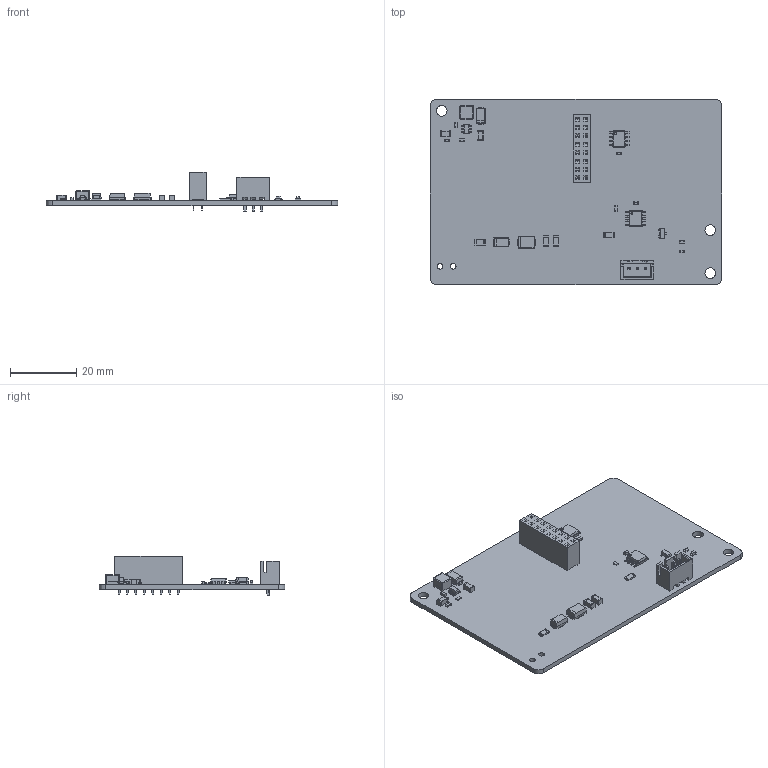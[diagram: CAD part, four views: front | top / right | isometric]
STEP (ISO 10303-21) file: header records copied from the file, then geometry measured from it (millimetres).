
FILE_DESCRIPTION(('KiCad electronic assembly'),'2;1');
FILE_NAME('AP1_DMX.step','2026-10-06T22:24:55',('Pcbnew'),('Kicad'), 'Open CASCADE STEP processor 7.6','KiCad to STEP converter','Unknown' );
FILE_SCHEMA(('AUTOMOTIVE_DESIGN { 1 0 10303 214 1 1 1 1 }'));
Length unit declared in the file: millimetre
Products named in the file (16): AP1_DMX 1; Fuse_1206_3216Metric; C_0603_1608Metric; SOT-23-6; C_1206_3216Metric; LED_0603_1608Metric; D_SMA; L_Changjiang_FNR4030S; SOIC-8_3.9x4.9mm_P1.27mm; R_0603_1608Metric; JST_XH_B3B-XH-A_1x03_P2.50mm_Vertical; D_SMB; R_1206_3216Metric; PinSocket_2x08_P2.54mm_Vertical; SOT-23; AP1_DMX_PCB
Assembly tree (25 placements, depth 2):
  AP1_DMX 1
    Fuse_1206_3216Metric
    C_0603_1608Metric  x3
    SOT-23-6
    C_1206_3216Metric  x4
    LED_0603_1608Metric
    D_SMA  x2
    L_Changjiang_FNR4030S
    SOIC-8_3.9x4.9mm_P1.27mm  x2
    R_0603_1608Metric  x4
    JST_XH_B3B-XH-A_1x03_P2.50mm_Vertical
    D_SMB
    R_1206_3216Metric
    PinSocket_2x08_P2.54mm_Vertical
    SOT-23
    AP1_DMX_PCB
Bounding box: 88 x 56 x 11.9 mm (x, y, z)
Volume: 8648.4 mm3; surface area: 12564.1 mm2
Topology: 25 solids, 25 shells, 1642 faces, 4254 edges, 2716 vertices
Faces by surface type: plane 1193, cylinder 294, bspline 151, sphere 4
Full cylindrical faces by diameter (mm): 0.6 x2, 0.95 x3, 1 x16, 1.7 x2, 3.2 x3
Entity records: 36930 total; most frequent: CARTESIAN_POINT 6947, ORIENTED_EDGE 6354, DIRECTION 5671, EDGE_CURVE 3177, LINE 2691, VECTOR 2691, VERTEX_POINT 2026, AXIS2_PLACEMENT_3D 1490
